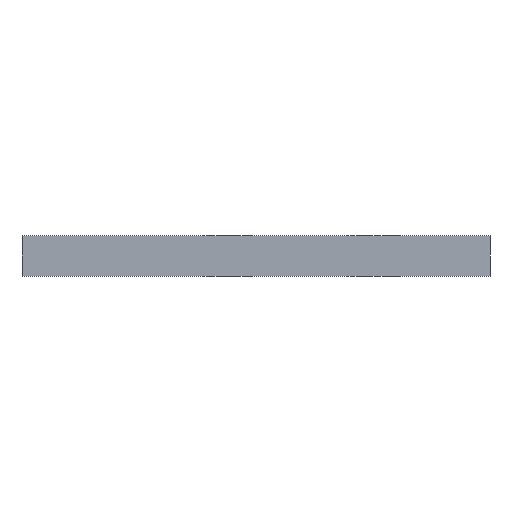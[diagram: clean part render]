
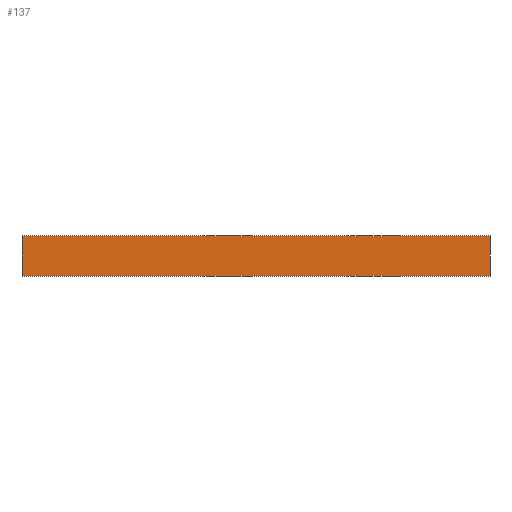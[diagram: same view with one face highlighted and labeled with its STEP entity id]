
A CAD part, front view. The second image highlights one B-rep face of the part: STEP entity #137.
In plain terms, the highlighted planar face has unit normal (0, -1, 0).
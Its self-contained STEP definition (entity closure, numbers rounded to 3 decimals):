
#21 = EDGE_CURVE('',#22,#24,#26,.T.);
#22 = VERTEX_POINT('',#23);
#23 = CARTESIAN_POINT('',(180.,-200.,158.));
#24 = VERTEX_POINT('',#25);
#25 = CARTESIAN_POINT('',(180.,-200.,165.));
#26 = SURFACE_CURVE('',#27,(#31,#43),.PCURVE_S1.);
#27 = LINE('',#28,#29);
#28 = CARTESIAN_POINT('',(180.,-200.,158.));
#29 = VECTOR('',#30,1.);
#30 = DIRECTION('',(0.,0.,1.));
#31 = PCURVE('',#32,#37);
#32 = PLANE('',#33);
#33 = AXIS2_PLACEMENT_3D('',#34,#35,#36);
#34 = CARTESIAN_POINT('',(180.,-200.,158.));
#35 = DIRECTION('',(1.,0.,0.));
#36 = DIRECTION('',(0.,0.,1.));
#37 = DEFINITIONAL_REPRESENTATION('',(#38),#42);
#38 = LINE('',#39,#40);
#39 = CARTESIAN_POINT('',(0.,0.));
#40 = VECTOR('',#41,1.);
#41 = DIRECTION('',(1.,0.));
#42 = ( GEOMETRIC_REPRESENTATION_CONTEXT(2) 
PARAMETRIC_REPRESENTATION_CONTEXT() REPRESENTATION_CONTEXT('2D SPACE',''
  ) );
#43 = PCURVE('',#44,#49);
#44 = PLANE('',#45);
#45 = AXIS2_PLACEMENT_3D('',#46,#47,#48);
#46 = CARTESIAN_POINT('',(180.,-200.,158.));
#47 = DIRECTION('',(0.,1.,0.));
#48 = DIRECTION('',(0.,0.,1.));
#49 = DEFINITIONAL_REPRESENTATION('',(#50),#54);
#50 = LINE('',#51,#52);
#51 = CARTESIAN_POINT('',(0.,0.));
#52 = VECTOR('',#53,1.);
#53 = DIRECTION('',(1.,0.));
#54 = ( GEOMETRIC_REPRESENTATION_CONTEXT(2) 
PARAMETRIC_REPRESENTATION_CONTEXT() REPRESENTATION_CONTEXT('2D SPACE',''
  ) );
#72 = PLANE('',#73);
#73 = AXIS2_PLACEMENT_3D('',#74,#75,#76);
#74 = CARTESIAN_POINT('',(180.,-200.,158.));
#75 = DIRECTION('',(0.,0.,1.));
#76 = DIRECTION('',(1.,0.,0.));
#126 = PLANE('',#127);
#127 = AXIS2_PLACEMENT_3D('',#128,#129,#130);
#128 = CARTESIAN_POINT('',(180.,-200.,165.));
#129 = DIRECTION('',(0.,0.,1.));
#130 = DIRECTION('',(1.,0.,0.));
#137 = ADVANCED_FACE('',(#138),#44,.F.);
#138 = FACE_BOUND('',#139,.F.);
#139 = EDGE_LOOP('',(#140,#163,#164,#187));
#140 = ORIENTED_EDGE('',*,*,#141,.F.);
#141 = EDGE_CURVE('',#22,#142,#144,.T.);
#142 = VERTEX_POINT('',#143);
#143 = CARTESIAN_POINT('',(260.,-200.,158.));
#144 = SURFACE_CURVE('',#145,(#149,#156),.PCURVE_S1.);
#145 = LINE('',#146,#147);
#146 = CARTESIAN_POINT('',(180.,-200.,158.));
#147 = VECTOR('',#148,1.);
#148 = DIRECTION('',(1.,0.,0.));
#149 = PCURVE('',#44,#150);
#150 = DEFINITIONAL_REPRESENTATION('',(#151),#155);
#151 = LINE('',#152,#153);
#152 = CARTESIAN_POINT('',(0.,0.));
#153 = VECTOR('',#154,1.);
#154 = DIRECTION('',(0.,1.));
#155 = ( GEOMETRIC_REPRESENTATION_CONTEXT(2) 
PARAMETRIC_REPRESENTATION_CONTEXT() REPRESENTATION_CONTEXT('2D SPACE',''
  ) );
#156 = PCURVE('',#72,#157);
#157 = DEFINITIONAL_REPRESENTATION('',(#158),#162);
#158 = LINE('',#159,#160);
#159 = CARTESIAN_POINT('',(0.,0.));
#160 = VECTOR('',#161,1.);
#161 = DIRECTION('',(1.,0.));
#162 = ( GEOMETRIC_REPRESENTATION_CONTEXT(2) 
PARAMETRIC_REPRESENTATION_CONTEXT() REPRESENTATION_CONTEXT('2D SPACE',''
  ) );
#163 = ORIENTED_EDGE('',*,*,#21,.T.);
#164 = ORIENTED_EDGE('',*,*,#165,.T.);
#165 = EDGE_CURVE('',#24,#166,#168,.T.);
#166 = VERTEX_POINT('',#167);
#167 = CARTESIAN_POINT('',(260.,-200.,165.));
#168 = SURFACE_CURVE('',#169,(#173,#180),.PCURVE_S1.);
#169 = LINE('',#170,#171);
#170 = CARTESIAN_POINT('',(180.,-200.,165.));
#171 = VECTOR('',#172,1.);
#172 = DIRECTION('',(1.,0.,0.));
#173 = PCURVE('',#44,#174);
#174 = DEFINITIONAL_REPRESENTATION('',(#175),#179);
#175 = LINE('',#176,#177);
#176 = CARTESIAN_POINT('',(7.,0.));
#177 = VECTOR('',#178,1.);
#178 = DIRECTION('',(0.,1.));
#179 = ( GEOMETRIC_REPRESENTATION_CONTEXT(2) 
PARAMETRIC_REPRESENTATION_CONTEXT() REPRESENTATION_CONTEXT('2D SPACE',''
  ) );
#180 = PCURVE('',#126,#181);
#181 = DEFINITIONAL_REPRESENTATION('',(#182),#186);
#182 = LINE('',#183,#184);
#183 = CARTESIAN_POINT('',(0.,0.));
#184 = VECTOR('',#185,1.);
#185 = DIRECTION('',(1.,0.));
#186 = ( GEOMETRIC_REPRESENTATION_CONTEXT(2) 
PARAMETRIC_REPRESENTATION_CONTEXT() REPRESENTATION_CONTEXT('2D SPACE',''
  ) );
#187 = ORIENTED_EDGE('',*,*,#188,.F.);
#188 = EDGE_CURVE('',#142,#166,#189,.T.);
#189 = SURFACE_CURVE('',#190,(#194,#201),.PCURVE_S1.);
#190 = LINE('',#191,#192);
#191 = CARTESIAN_POINT('',(260.,-200.,158.));
#192 = VECTOR('',#193,1.);
#193 = DIRECTION('',(0.,0.,1.));
#194 = PCURVE('',#44,#195);
#195 = DEFINITIONAL_REPRESENTATION('',(#196),#200);
#196 = LINE('',#197,#198);
#197 = CARTESIAN_POINT('',(0.,80.));
#198 = VECTOR('',#199,1.);
#199 = DIRECTION('',(1.,0.));
#200 = ( GEOMETRIC_REPRESENTATION_CONTEXT(2) 
PARAMETRIC_REPRESENTATION_CONTEXT() REPRESENTATION_CONTEXT('2D SPACE',''
  ) );
#201 = PCURVE('',#202,#207);
#202 = PLANE('',#203);
#203 = AXIS2_PLACEMENT_3D('',#204,#205,#206);
#204 = CARTESIAN_POINT('',(260.,-200.,158.));
#205 = DIRECTION('',(1.,0.,0.));
#206 = DIRECTION('',(0.,0.,1.));
#207 = DEFINITIONAL_REPRESENTATION('',(#208),#212);
#208 = LINE('',#209,#210);
#209 = CARTESIAN_POINT('',(0.,0.));
#210 = VECTOR('',#211,1.);
#211 = DIRECTION('',(1.,0.));
#212 = ( GEOMETRIC_REPRESENTATION_CONTEXT(2) 
PARAMETRIC_REPRESENTATION_CONTEXT() REPRESENTATION_CONTEXT('2D SPACE',''
  ) );
